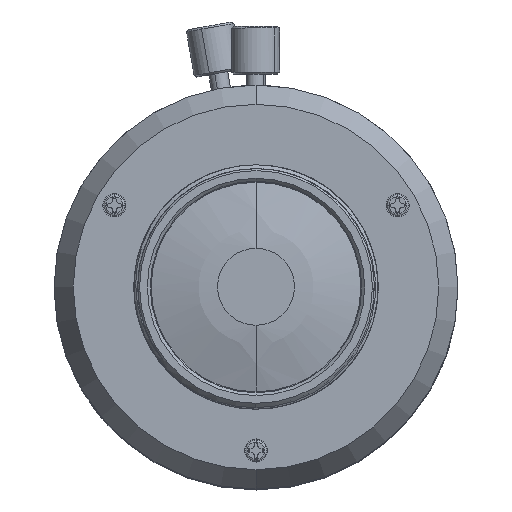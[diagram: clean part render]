
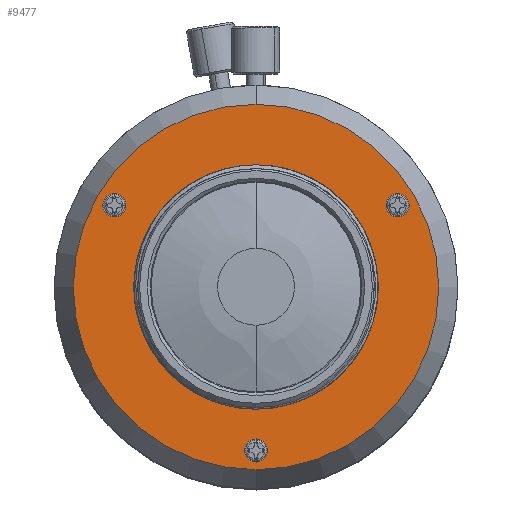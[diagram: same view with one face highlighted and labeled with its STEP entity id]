
A CAD part, top view. The second image highlights one B-rep face of the part: STEP entity #9477.
In plain terms, the highlighted planar face has unit normal (0, 0, 1) as drawn and (0, -1, 0) by its records, which use the part's own axes.
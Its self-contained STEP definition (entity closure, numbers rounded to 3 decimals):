
#8019=CARTESIAN_POINT('',(0.,-2.674,0.));
#8020=DIRECTION('',(0.,1.,0.));
#8021=DIRECTION('',(0.,0.,-1.));
#8022=AXIS2_PLACEMENT_3D('',#8019,#8020,#8021);
#8024=CARTESIAN_POINT('',(0.,-2.674,0.));
#8025=DIRECTION('',(0.,1.,0.));
#8026=DIRECTION('',(0.,0.,1.));
#8027=AXIS2_PLACEMENT_3D('',#8024,#8025,#8026);
#8029=CARTESIAN_POINT('',(0.,-2.674,0.));
#8030=DIRECTION('',(0.,-1.,0.));
#8031=DIRECTION('',(0.,0.,1.));
#8032=AXIS2_PLACEMENT_3D('',#8029,#8030,#8031);
#8034=CARTESIAN_POINT('',(0.,-2.674,0.));
#8035=DIRECTION('',(0.,-1.,0.));
#8036=DIRECTION('',(0.,0.,-1.));
#8037=AXIS2_PLACEMENT_3D('',#8034,#8035,#8036);
#8039=CARTESIAN_POINT('',(0.,-2.674,-17.));
#8040=DIRECTION('',(0.,-1.,0.));
#8041=DIRECTION('',(0.,0.,-1.));
#8042=AXIS2_PLACEMENT_3D('',#8039,#8040,#8041);
#8044=CARTESIAN_POINT('',(0.,-2.674,-17.));
#8045=DIRECTION('',(0.,-1.,0.));
#8046=DIRECTION('',(0.,0.,1.));
#8047=AXIS2_PLACEMENT_3D('',#8044,#8045,#8046);
#8049=CARTESIAN_POINT('',(14.722,-2.674,8.5));
#8050=DIRECTION('',(0.,-1.,0.));
#8051=DIRECTION('',(0.866,0.,0.5));
#8052=AXIS2_PLACEMENT_3D('',#8049,#8050,#8051);
#8054=CARTESIAN_POINT('',(14.722,-2.674,8.5));
#8055=DIRECTION('',(0.,-1.,0.));
#8056=DIRECTION('',(-0.866,0.,-0.5));
#8057=AXIS2_PLACEMENT_3D('',#8054,#8055,#8056);
#8059=CARTESIAN_POINT('',(-14.722,-2.674,8.5));
#8060=DIRECTION('',(0.,-1.,0.));
#8061=DIRECTION('',(-0.866,0.,0.5));
#8062=AXIS2_PLACEMENT_3D('',#8059,#8060,#8061);
#8064=CARTESIAN_POINT('',(-14.722,-2.674,8.5));
#8065=DIRECTION('',(0.,-1.,0.));
#8066=DIRECTION('',(0.866,0.,-0.5));
#8067=AXIS2_PLACEMENT_3D('',#8064,#8065,#8066);
#9220=CARTESIAN_POINT('',(0.,-2.674,-18.2));
#9221=CARTESIAN_POINT('',(0.,-2.674,-15.8));
#9222=VERTEX_POINT('',#9220);
#9223=VERTEX_POINT('',#9221);
#9224=CARTESIAN_POINT('',(0.,-2.674,-19.));
#9225=CARTESIAN_POINT('',(0.,-2.674,19.));
#9226=VERTEX_POINT('',#9224);
#9227=VERTEX_POINT('',#9225);
#9228=CARTESIAN_POINT('',(0.,-2.674,12.2));
#9229=CARTESIAN_POINT('',(0.,-2.674,-12.2));
#9230=VERTEX_POINT('',#9228);
#9231=VERTEX_POINT('',#9229);
#9232=CARTESIAN_POINT('',(15.762,-2.674,9.1));
#9233=CARTESIAN_POINT('',(13.683,-2.674,7.9));
#9234=VERTEX_POINT('',#9232);
#9235=VERTEX_POINT('',#9233);
#9236=CARTESIAN_POINT('',(-15.762,-2.674,9.1));
#9237=CARTESIAN_POINT('',(-13.683,-2.674,7.9));
#9238=VERTEX_POINT('',#9236);
#9239=VERTEX_POINT('',#9237);
#9444=CARTESIAN_POINT('',(0.,-2.674,0.));
#9445=DIRECTION('',(0.,-1.,0.));
#9446=DIRECTION('',(0.,0.,1.));
#9447=AXIS2_PLACEMENT_3D('',#9444,#9445,#9446);
#9448=PLANE('',#9447);
#9449=ORIENTED_EDGE('',*,*,#9424,.T.);
#9450=ORIENTED_EDGE('',*,*,#9438,.T.);
#9451=EDGE_LOOP('',(#9449,#9450));
#9452=FACE_OUTER_BOUND('',#9451,.F.);
#9454=ORIENTED_EDGE('',*,*,#9453,.T.);
#9456=ORIENTED_EDGE('',*,*,#9455,.T.);
#9457=EDGE_LOOP('',(#9454,#9456));
#9458=FACE_BOUND('',#9457,.F.);
#9460=ORIENTED_EDGE('',*,*,#9459,.T.);
#9462=ORIENTED_EDGE('',*,*,#9461,.T.);
#9463=EDGE_LOOP('',(#9460,#9462));
#9464=FACE_BOUND('',#9463,.F.);
#9466=ORIENTED_EDGE('',*,*,#9465,.T.);
#9468=ORIENTED_EDGE('',*,*,#9467,.T.);
#9469=EDGE_LOOP('',(#9466,#9468));
#9470=FACE_BOUND('',#9469,.F.);
#9472=ORIENTED_EDGE('',*,*,#9471,.T.);
#9474=ORIENTED_EDGE('',*,*,#9473,.T.);
#9475=EDGE_LOOP('',(#9472,#9474));
#9476=FACE_BOUND('',#9475,.F.);
#9477=ADVANCED_FACE('',(#9452,#9458,#9464,#9470,#9476),#9448,.T.);
#8023=CIRCLE('',#8022,19.);
#8028=CIRCLE('',#8027,19.);
#8033=CIRCLE('',#8032,12.2);
#8038=CIRCLE('',#8037,12.2);
#8043=CIRCLE('',#8042,1.2);
#8048=CIRCLE('',#8047,1.2);
#8053=CIRCLE('',#8052,1.2);
#8058=CIRCLE('',#8057,1.2);
#8063=CIRCLE('',#8062,1.2);
#8068=CIRCLE('',#8067,1.2);
#9424=EDGE_CURVE('',#9226,#9227,#8023,.T.);
#9438=EDGE_CURVE('',#9227,#9226,#8028,.T.);
#9453=EDGE_CURVE('',#9230,#9231,#8033,.T.);
#9455=EDGE_CURVE('',#9231,#9230,#8038,.T.);
#9459=EDGE_CURVE('',#9222,#9223,#8043,.T.);
#9461=EDGE_CURVE('',#9223,#9222,#8048,.T.);
#9465=EDGE_CURVE('',#9234,#9235,#8053,.T.);
#9467=EDGE_CURVE('',#9235,#9234,#8058,.T.);
#9471=EDGE_CURVE('',#9238,#9239,#8063,.T.);
#9473=EDGE_CURVE('',#9239,#9238,#8068,.T.);
